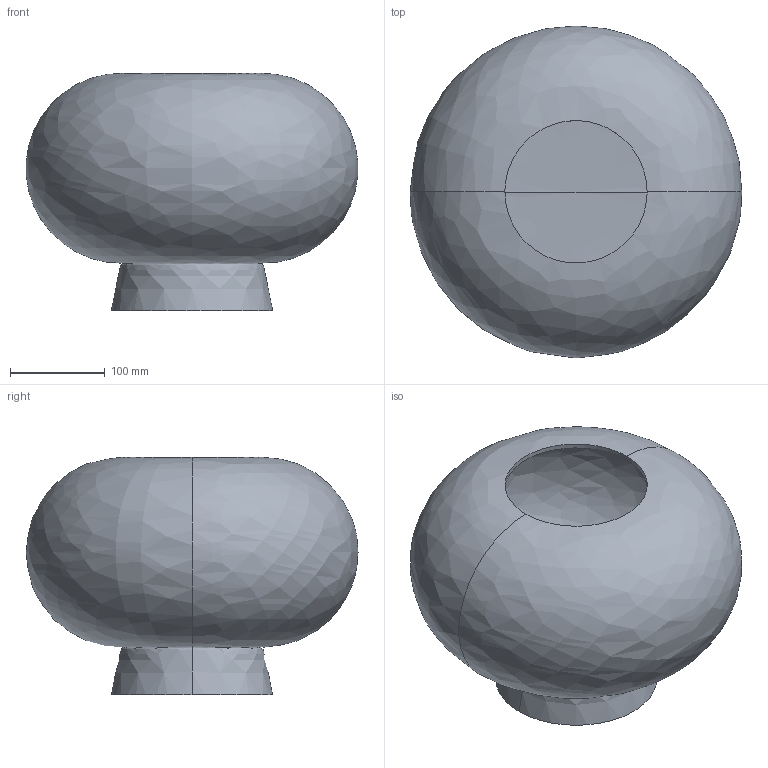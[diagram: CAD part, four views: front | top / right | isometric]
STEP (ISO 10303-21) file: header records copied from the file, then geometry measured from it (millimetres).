
FILE_DESCRIPTION(/* description */ (''),/* implementation_level */ '2;1');
FILE_NAME(/* name */ 'Kabin Vase Fat',/* time_stamp */ '2020-03-03T15:10:32+01:00',/* author */ (''),/* organization */ (''),/* preprocessor_version */ 'ST-DEVELOPER v15',/* originating_system */ '',/* authorisation */ '');
FILE_SCHEMA (('AUTOMOTIVE_DESIGN'));
Length unit declared in the file: millimetre
Products named in the file (1): Document
Bounding box: 349.44 x 350 x 250 mm (x, y, z)
Volume: 1582860.4 mm3; surface area: 648913.7 mm2
Topology: 2 solids, 2 shells, 14 faces, 32 edges, 14 vertices
Faces by surface type: bspline 14
Entity records: 578 total; most frequent: CARTESIAN_POINT 414, ORIENTED_EDGE 48, EDGE_CURVE 24, ADVANCED_FACE 14, FACE_OUTER_BOUND 14, EDGE_LOOP 14, VERTEX_POINT 14, B_SPLINE_CURVE_WITH_KNOTS 8
